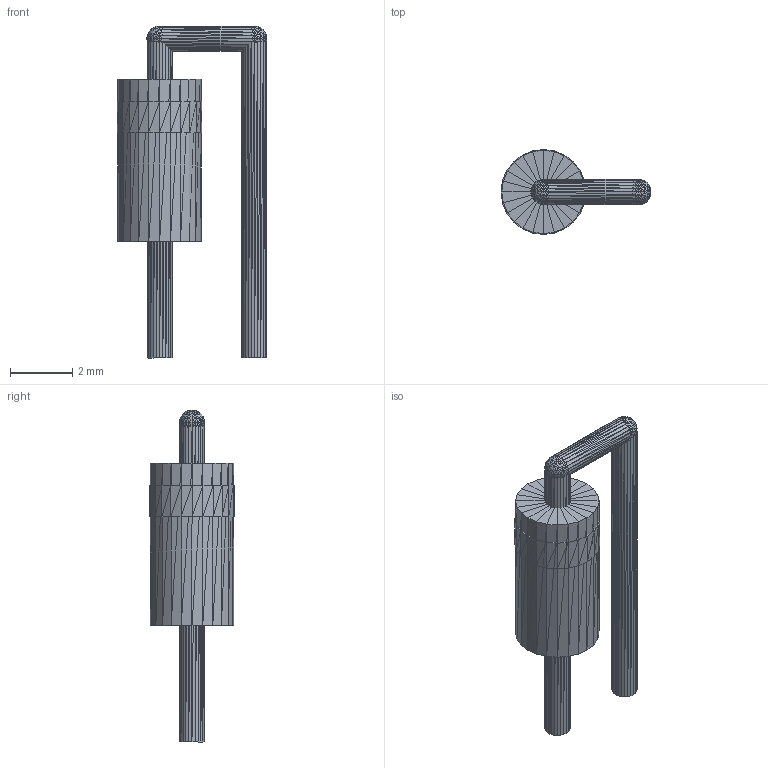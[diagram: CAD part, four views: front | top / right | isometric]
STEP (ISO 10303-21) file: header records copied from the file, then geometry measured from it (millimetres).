
FILE_DESCRIPTION(('HOOPS Exchange Step'),'2;1');
FILE_NAME('***.stp');
FILE_SCHEMA( ('AP242_MANAGED_MODEL_BASED_3D_ENGINEERING_MIM_LF {1 0 10303 442 1 1 4 }') );
Length unit declared in the file: inch
Products named in the file (8): DO-41_V_2; DO-41_V_3; DO-41_V_4; DO-41_V_5; DO-41_V_6; DO-41_V_7; DO-41_V_8; DO-41_V
Assembly tree (7 placements, depth 2):
  DO-41_V
    DO-41_V_2
    DO-41_V_3
    DO-41_V_4
    DO-41_V_5
    DO-41_V_6
    DO-41_V_7
    DO-41_V_8
Bounding box: 4.82 x 2.73 x 10.67 mm (x, y, z)
Volume: 47.4 mm3; surface area: 141.7 mm2
Topology: 7 solids, 7 shells, 1056 faces, 1584 edges, 542 vertices
Faces by surface type: plane 1056
Entity records: 20963 total; most frequent: DIRECTION 3728, CARTESIAN_POINT 3198, ORIENTED_EDGE 3168, VECTOR 1584, LINE 1584, EDGE_CURVE 1584, AXIS2_PLACEMENT_3D 1072, PLANE 1056
